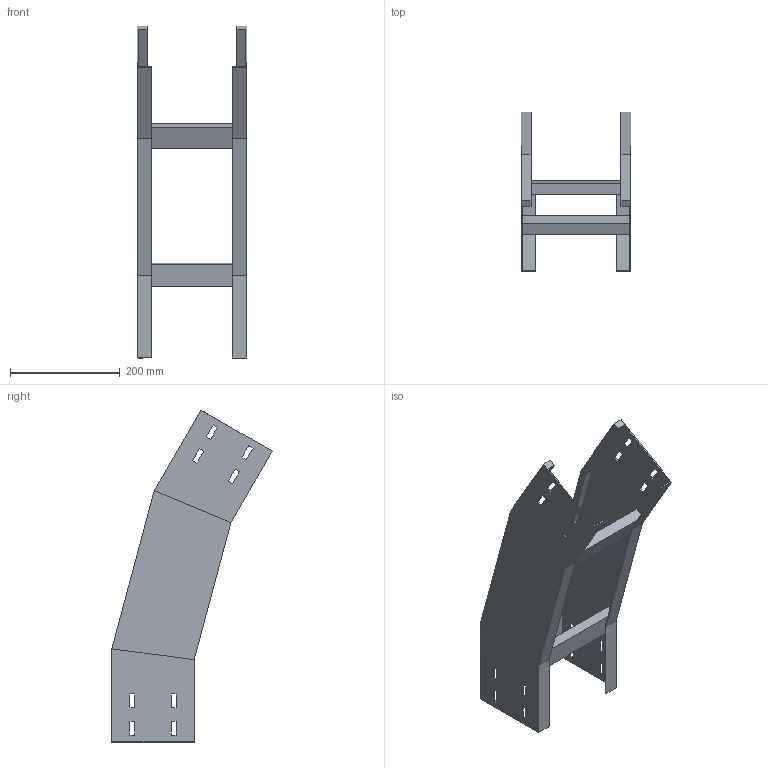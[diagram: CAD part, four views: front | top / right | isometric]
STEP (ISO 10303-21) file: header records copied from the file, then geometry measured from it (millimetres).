
FILE_DESCRIPTION (( 'STEP AP214' ), '1' );
FILE_NAME ('35J5F200.step', '2025-02-21T16:21:24', ( '' ), ( '' ), 'SwSTEP 2.0', 'SolidWorks 2023', '' );
FILE_SCHEMA (( 'AUTOMOTIVE_DESIGN' ));
Length unit declared in the file: millimetre
Products named in the file (3): LONGH.DISCESA_30°_H150_R500; TRAVERSINO_200; 35J5F200
Assembly tree (4 placements, depth 2):
  35J5F200
    LONGH.DISCESA_30°_H150_R500  x2
    TRAVERSINO_200  x2
Bounding box: 200 x 292.03 x 605.08 mm (x, y, z)
Volume: 969145.5 mm3; surface area: 508283.3 mm2
Topology: 4 solids, 4 shells, 128 faces, 328 edges, 208 vertices
Faces by surface type: plane 128
Entity records: 2016 total; most frequent: CARTESIAN_POINT 339, ORIENTED_EDGE 328, DIRECTION 306, LINE 164, EDGE_CURVE 164, VECTOR 164, VERTEX_POINT 104, EDGE_LOOP 80
